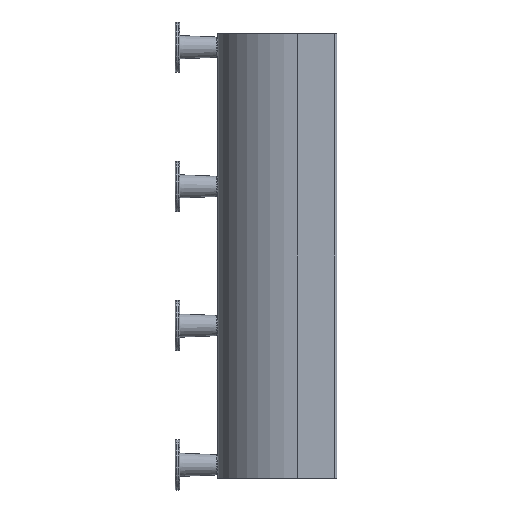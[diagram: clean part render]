
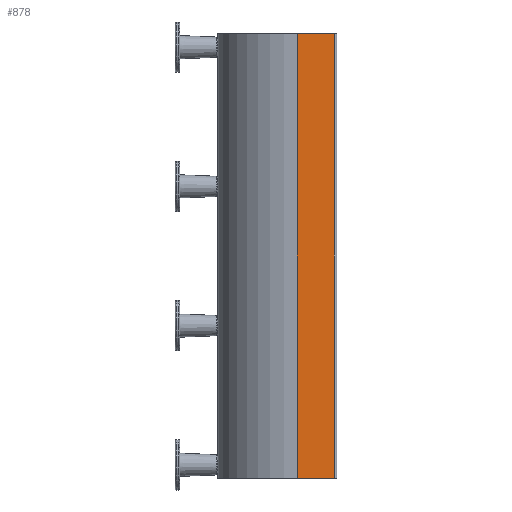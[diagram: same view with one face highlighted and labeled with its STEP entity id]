
A CAD part, left-side view. The second image highlights one B-rep face of the part: STEP entity #878.
In plain terms, the highlighted planar face has unit normal (-1, 0, 0) as drawn and (0, 0, 1) by its records, which use the part's own axes.
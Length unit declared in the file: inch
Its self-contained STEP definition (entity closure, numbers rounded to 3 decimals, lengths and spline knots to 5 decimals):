
#143 = CARTESIAN_POINT ( 'NONE',  ( 8.375, 1.5, 0. ) ) ;
#177 = CARTESIAN_POINT ( 'NONE',  ( -8.375, 0.1, 0. ) ) ;
#178 = VECTOR ( 'NONE', #245, 39.37008 ) ;
#217 = CARTESIAN_POINT ( 'NONE',  ( 8.375, 0., 0. ) ) ;
#245 = DIRECTION ( 'NONE',  ( 0., -1., 0. ) ) ;
#376 = VERTEX_POINT ( 'NONE', #7393 ) ;
#548 = DIRECTION ( 'NONE',  ( -1., 0., 0. ) ) ;
#571 = DIRECTION ( 'NONE',  ( 0., 0., -1. ) ) ;
#731 = VERTEX_POINT ( 'NONE', #177 ) ;
#777 = LINE ( 'NONE', #217, #178 ) ;
#878 = ADVANCED_FACE ( 'NONE', ( #6553 ), #1331, .F. ) ;
#900 = CARTESIAN_POINT ( 'NONE',  ( 8.375, 0., 0. ) ) ;
#1331 = PLANE ( 'NONE',  #4179 ) ;
#1452 = EDGE_CURVE ( 'NONE', #6888, #376, #1868, .T. ) ;
#1744 = VECTOR ( 'NONE', #5338, 39.37008 ) ;
#1805 = LINE ( 'NONE', #4899, #6866 ) ;
#1868 = LINE ( 'NONE', #143, #1744 ) ;
#2250 = ORIENTED_EDGE ( 'NONE', *, *, #5213, .F. ) ;
#2267 = CARTESIAN_POINT ( 'NONE',  ( 8.375, 1.5, 0. ) ) ;
#2514 = CARTESIAN_POINT ( 'NONE',  ( 8.375, 0.1, 0. ) ) ;
#2755 = ORIENTED_EDGE ( 'NONE', *, *, #7515, .T. ) ;
#2808 = VERTEX_POINT ( 'NONE', #7957 ) ;
#3176 = DIRECTION ( 'NONE',  ( 1., 0., 0. ) ) ;
#3429 = LINE ( 'NONE', #2514, #3524 ) ;
#3524 = VECTOR ( 'NONE', #3176, 39.37008 ) ;
#4179 = AXIS2_PLACEMENT_3D ( 'NONE', #900, #571, #548 ) ;
#4275 = ORIENTED_EDGE ( 'NONE', *, *, #7052, .T. ) ;
#4315 = ORIENTED_EDGE ( 'NONE', *, *, #1452, .T. ) ;
#4899 = CARTESIAN_POINT ( 'NONE',  ( -8.375, 0., 0. ) ) ;
#5213 = EDGE_CURVE ( 'NONE', #6888, #2808, #777, .T. ) ;
#5261 = EDGE_LOOP ( 'NONE', ( #2755, #4275, #2250, #4315 ) ) ;
#5338 = DIRECTION ( 'NONE',  ( -1., 0., 0. ) ) ;
#5573 = DIRECTION ( 'NONE',  ( 0., -1., 0. ) ) ;
#6553 = FACE_OUTER_BOUND ( 'NONE', #5261, .T. ) ;
#6866 = VECTOR ( 'NONE', #5573, 39.37008 ) ;
#6888 = VERTEX_POINT ( 'NONE', #2267 ) ;
#7052 = EDGE_CURVE ( 'NONE', #731, #2808, #3429, .T. ) ;
#7393 = CARTESIAN_POINT ( 'NONE',  ( -8.375, 1.5, 0. ) ) ;
#7515 = EDGE_CURVE ( 'NONE', #376, #731, #1805, .T. ) ;
#7957 = CARTESIAN_POINT ( 'NONE',  ( 8.375, 0.1, 0. ) ) ;
